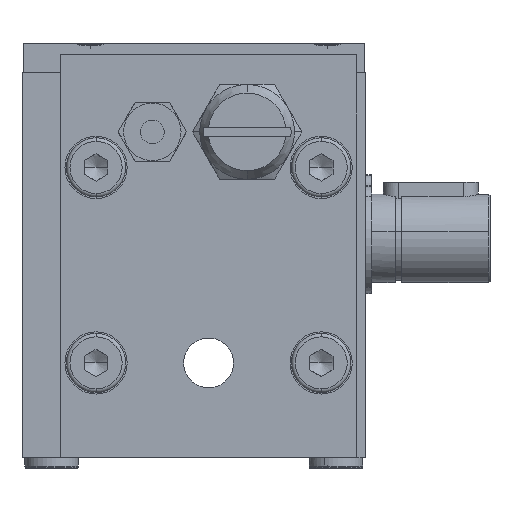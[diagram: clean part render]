
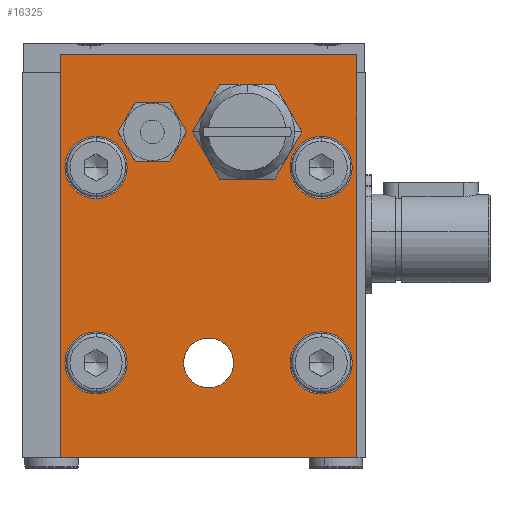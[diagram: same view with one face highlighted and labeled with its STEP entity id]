
A CAD part, front view. The second image highlights one B-rep face of the part: STEP entity #16325.
In plain terms, the highlighted planar face has unit normal (0, -1, 0).
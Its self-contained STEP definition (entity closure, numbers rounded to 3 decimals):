
#4507=CARTESIAN_POINT('',(-17.2,-8.,58.142));
#4508=VERTEX_POINT('',#4507);
#4517=CARTESIAN_POINT('',(-32.8,-8.0,58.142));
#4518=VERTEX_POINT('',#4517);
#4519=CARTESIAN_POINT('',(-25.,-8.,58.142));
#4520=DIRECTION('',(0.0,1.0,0.0));
#4521=DIRECTION('',(1.0,0.0,0.0));
#4522=AXIS2_PLACEMENT_3D('',#4519,#4520,#4521);
#4523=CIRCLE('',#4522,7.8);
#4524=EDGE_CURVE('',#4518,#4508,#4523,.T.);
#5121=CARTESIAN_POINT('',(-27.293,-8.,19.142));
#5122=VERTEX_POINT('',#5121);
#5138=CARTESIAN_POINT('',(-35.707,-8.,19.142));
#5139=VERTEX_POINT('',#5138);
#5146=CARTESIAN_POINT('',(-31.5,-8.,19.142));
#5147=DIRECTION('',(0.0,1.0,0.0));
#5148=DIRECTION('',(1.0,0.0,0.0));
#5149=AXIS2_PLACEMENT_3D('',#5146,#5147,#5148);
#5150=CIRCLE('',#5149,4.207);
#5151=EDGE_CURVE('',#5122,#5139,#5150,.T.);
#5246=CARTESIAN_POINT('',(-7.25,-8.,19.142));
#5247=VERTEX_POINT('',#5246);
#5263=CARTESIAN_POINT('',(-17.75,-8.,19.142));
#5264=VERTEX_POINT('',#5263);
#5271=CARTESIAN_POINT('',(-12.5,-8.,19.142));
#5272=DIRECTION('',(0.0,1.0,0.0));
#5273=DIRECTION('',(1.0,0.0,0.0));
#5274=AXIS2_PLACEMENT_3D('',#5271,#5272,#5273);
#5275=CIRCLE('',#5274,5.25);
#5276=EDGE_CURVE('',#5247,#5264,#5275,.T.);
#5309=CARTESIAN_POINT('',(-45.25,-8.,52.142));
#5310=VERTEX_POINT('',#5309);
#5326=CARTESIAN_POINT('',(-55.75,-8.,52.142));
#5327=VERTEX_POINT('',#5326);
#5334=CARTESIAN_POINT('',(-50.5,-8.,52.142));
#5335=DIRECTION('',(0.0,1.0,0.0));
#5336=DIRECTION('',(1.0,0.0,0.0));
#5337=AXIS2_PLACEMENT_3D('',#5334,#5335,#5336);
#5338=CIRCLE('',#5337,5.25);
#5339=EDGE_CURVE('',#5310,#5327,#5338,.T.);
#5372=CARTESIAN_POINT('',(-7.25,-8.,52.142));
#5373=VERTEX_POINT('',#5372);
#5389=CARTESIAN_POINT('',(-17.75,-8.,52.142));
#5390=VERTEX_POINT('',#5389);
#5397=CARTESIAN_POINT('',(-12.5,-8.,52.142));
#5398=DIRECTION('',(0.0,1.0,0.0));
#5399=DIRECTION('',(1.0,0.0,0.0));
#5400=AXIS2_PLACEMENT_3D('',#5397,#5398,#5399);
#5401=CIRCLE('',#5400,5.25);
#5402=EDGE_CURVE('',#5373,#5390,#5401,.T.);
#5435=CARTESIAN_POINT('',(-45.25,-8.,19.142));
#5436=VERTEX_POINT('',#5435);
#5452=CARTESIAN_POINT('',(-55.75,-8.,19.142));
#5453=VERTEX_POINT('',#5452);
#5460=CARTESIAN_POINT('',(-50.5,-8.,19.142));
#5461=DIRECTION('',(0.0,1.0,0.0));
#5462=DIRECTION('',(1.0,0.0,0.0));
#5463=AXIS2_PLACEMENT_3D('',#5460,#5461,#5462);
#5464=CIRCLE('',#5463,5.25);
#5465=EDGE_CURVE('',#5436,#5453,#5464,.T.);
#5475=CARTESIAN_POINT('',(-43.4,-8.,53.985));
#5476=VERTEX_POINT('',#5475);
#5485=CARTESIAN_POINT('',(-38.6,-8.,62.299));
#5486=VERTEX_POINT('',#5485);
#5487=CARTESIAN_POINT('',(-41.,-8.,58.142));
#5488=DIRECTION('',(0.,1.0,0.));
#5489=DIRECTION('',(-0.5,0.,-0.866));
#5490=AXIS2_PLACEMENT_3D('',#5487,#5488,#5489);
#5491=CIRCLE('',#5490,4.8);
#5492=EDGE_CURVE('',#5486,#5476,#5491,.T.);
#15218=CARTESIAN_POINT('',(-41.,-8.,58.142));
#15219=DIRECTION('',(0.,1.0,0.));
#15220=DIRECTION('',(-0.5,0.,-0.866));
#15221=AXIS2_PLACEMENT_3D('',#15218,#15219,#15220);
#15222=CIRCLE('',#15221,4.8);
#15223=EDGE_CURVE('',#5476,#5486,#15222,.T.);
#15305=CARTESIAN_POINT('',(-56.5,-8.,71.142));
#15306=VERTEX_POINT('',#15305);
#15307=CARTESIAN_POINT('',(-6.5,-8.0,71.142));
#15308=VERTEX_POINT('',#15307);
#15309=CARTESIAN_POINT('',(-56.5,-8.,71.142));
#15310=DIRECTION('',(1.0,0.0,0.0));
#15311=VECTOR('',#15310,50.0);
#15312=LINE('',#15309,#15311);
#15313=EDGE_CURVE('',#15306,#15308,#15312,.T.);
#15345=CARTESIAN_POINT('',(-56.5,-8.,3.142));
#15346=VERTEX_POINT('',#15345);
#15347=CARTESIAN_POINT('',(-56.5,-8.,3.142));
#15348=DIRECTION('',(0.0,0.0,1.0));
#15349=VECTOR('',#15348,68.);
#15350=LINE('',#15347,#15349);
#15351=EDGE_CURVE('',#15346,#15306,#15350,.T.);
#15384=CARTESIAN_POINT('',(-6.5,-8.,3.142));
#15385=VERTEX_POINT('',#15384);
#15386=CARTESIAN_POINT('',(-6.5,-8.,3.142));
#15387=DIRECTION('',(-1.0,0.0,0.0));
#15388=VECTOR('',#15387,50.);
#15389=LINE('',#15386,#15388);
#15390=EDGE_CURVE('',#15385,#15346,#15389,.T.);
#15415=CARTESIAN_POINT('',(-6.5,-8.0,71.142));
#15416=DIRECTION('',(0.0,0.0,-1.0));
#15417=VECTOR('',#15416,68.0);
#15418=LINE('',#15415,#15417);
#15419=EDGE_CURVE('',#15308,#15385,#15418,.T.);
#15467=CARTESIAN_POINT('',(-50.5,-8.,19.142));
#15468=DIRECTION('',(0.0,1.0,0.0));
#15469=DIRECTION('',(1.0,0.0,0.0));
#15470=AXIS2_PLACEMENT_3D('',#15467,#15468,#15469);
#15471=CIRCLE('',#15470,5.25);
#15472=EDGE_CURVE('',#5453,#5436,#15471,.T.);
#15532=CARTESIAN_POINT('',(-12.5,-8.,52.142));
#15533=DIRECTION('',(0.0,1.0,0.0));
#15534=DIRECTION('',(1.0,0.0,0.0));
#15535=AXIS2_PLACEMENT_3D('',#15532,#15533,#15534);
#15536=CIRCLE('',#15535,5.25);
#15537=EDGE_CURVE('',#5390,#5373,#15536,.T.);
#15597=CARTESIAN_POINT('',(-50.5,-8.,52.142));
#15598=DIRECTION('',(0.0,1.0,0.0));
#15599=DIRECTION('',(1.0,0.0,0.0));
#15600=AXIS2_PLACEMENT_3D('',#15597,#15598,#15599);
#15601=CIRCLE('',#15600,5.25);
#15602=EDGE_CURVE('',#5327,#5310,#15601,.T.);
#15662=CARTESIAN_POINT('',(-12.5,-8.,19.142));
#15663=DIRECTION('',(0.0,1.0,0.0));
#15664=DIRECTION('',(1.0,0.0,0.0));
#15665=AXIS2_PLACEMENT_3D('',#15662,#15663,#15664);
#15666=CIRCLE('',#15665,5.25);
#15667=EDGE_CURVE('',#5264,#5247,#15666,.T.);
#15773=CARTESIAN_POINT('',(-31.5,-8.,19.142));
#15774=DIRECTION('',(0.0,1.0,0.0));
#15775=DIRECTION('',(1.0,0.0,0.0));
#15776=AXIS2_PLACEMENT_3D('',#15773,#15774,#15775);
#15777=CIRCLE('',#15776,4.207);
#15778=EDGE_CURVE('',#5139,#5122,#15777,.T.);
#16280=CARTESIAN_POINT('',(-31.5,-8.,37.142));
#16281=DIRECTION('',(0.0,-1.0,0.0));
#16282=DIRECTION('',(0.0,0.0,-1.0));
#16283=AXIS2_PLACEMENT_3D('',#16280,#16281,#16282);
#16284=PLANE('',#16283);
#16285=ORIENTED_EDGE('',*,*,#15419,.F.);
#16286=ORIENTED_EDGE('',*,*,#15313,.F.);
#16287=ORIENTED_EDGE('',*,*,#15351,.F.);
#16288=ORIENTED_EDGE('',*,*,#15390,.F.);
#16289=EDGE_LOOP('',(#16285,#16286,#16287,#16288));
#16290=FACE_OUTER_BOUND('',#16289,.T.);
#16291=ORIENTED_EDGE('',*,*,#5492,.T.);
#16292=ORIENTED_EDGE('',*,*,#15223,.T.);
#16293=EDGE_LOOP('',(#16291,#16292));
#16294=FACE_BOUND('',#16293,.T.);
#16295=ORIENTED_EDGE('',*,*,#5151,.T.);
#16296=ORIENTED_EDGE('',*,*,#15778,.T.);
#16297=EDGE_LOOP('',(#16295,#16296));
#16298=FACE_BOUND('',#16297,.T.);
#16299=ORIENTED_EDGE('',*,*,#5276,.T.);
#16300=ORIENTED_EDGE('',*,*,#15667,.T.);
#16301=EDGE_LOOP('',(#16299,#16300));
#16302=FACE_BOUND('',#16301,.T.);
#16303=ORIENTED_EDGE('',*,*,#5339,.T.);
#16304=ORIENTED_EDGE('',*,*,#15602,.T.);
#16305=EDGE_LOOP('',(#16303,#16304));
#16306=FACE_BOUND('',#16305,.T.);
#16307=ORIENTED_EDGE('',*,*,#5402,.T.);
#16308=ORIENTED_EDGE('',*,*,#15537,.T.);
#16309=EDGE_LOOP('',(#16307,#16308));
#16310=FACE_BOUND('',#16309,.T.);
#16311=ORIENTED_EDGE('',*,*,#5465,.T.);
#16312=ORIENTED_EDGE('',*,*,#15472,.T.);
#16313=EDGE_LOOP('',(#16311,#16312));
#16314=FACE_BOUND('',#16313,.T.);
#16315=ORIENTED_EDGE('',*,*,#4524,.T.);
#16316=CARTESIAN_POINT('',(-25.,-8.,58.142));
#16317=DIRECTION('',(0.0,1.0,0.0));
#16318=DIRECTION('',(1.0,0.0,0.0));
#16319=AXIS2_PLACEMENT_3D('',#16316,#16317,#16318);
#16320=CIRCLE('',#16319,7.8);
#16321=EDGE_CURVE('',#4508,#4518,#16320,.T.);
#16322=ORIENTED_EDGE('',*,*,#16321,.T.);
#16323=EDGE_LOOP('',(#16315,#16322));
#16324=FACE_BOUND('',#16323,.T.);
#16325=ADVANCED_FACE('',(#16290,#16294,#16298,#16302,#16306,#16310,#16314,#16324),#16284,.T.);
